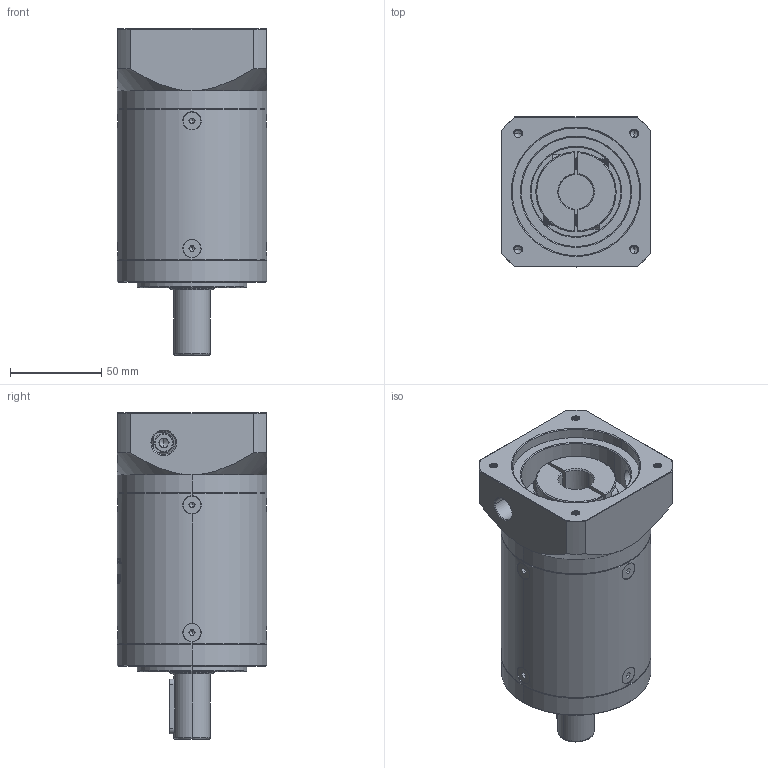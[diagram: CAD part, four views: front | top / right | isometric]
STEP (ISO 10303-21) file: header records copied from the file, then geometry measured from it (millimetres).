
FILE_DESCRIPTION (( 'STEP AP214' ), '1' );
FILE_NAME ('ZE80-D20-L3-19-70-90-M5.step', '2022-05-08T05:52:22', ( '' ), ( 'Microsoft' ), 'SwSTEP 2.0', 'SolidWorks 2016', '' );
FILE_SCHEMA (( 'AUTOMOTIVE_DESIGN' ));
Length unit declared in the file: millimetre
Products named in the file (1): ZE80-D20-L3-19-70-90-M5
Bounding box: 82 x 82 x 179 mm (x, y, z)
Volume: 712271.7 mm3; surface area: 92489.4 mm2
Topology: 13 solids, 13 shells, 2058 faces, 5365 edges, 3395 vertices
Faces by surface type: plane 886, cylinder 500, bspline 332, cone 323, torus 17
Entity records: 118267 total; most frequent: CARTESIAN_POINT 49487, ORIENTED_EDGE 10654, DIRECTION 8177, EDGE_CURVE 5327, VERTEX_POINT 3395, LINE 2851, VECTOR 2851, AXIS2_PLACEMENT_3D 2663
